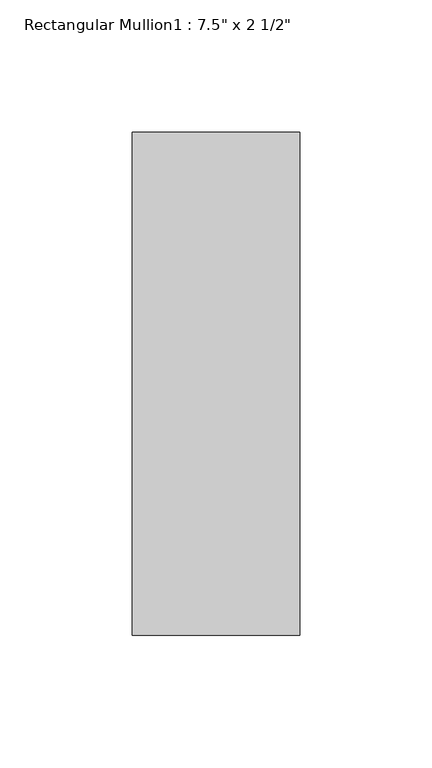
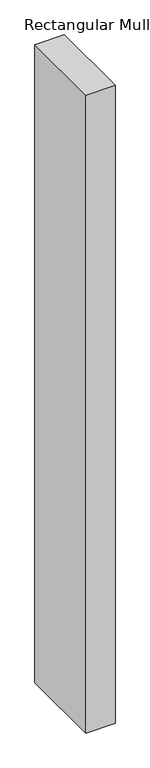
"""IFC4 building model written with IfcOpenShell, lengths in millimetres: member geometry."""

from ifc_helpers import new_model, si_unit, frame, origin, place, context, project, spatial, polyline, outline, extrude, source, transform, mapped, element, save


def member_0dfde9cc(model_context):
    return source(origin(), model_context, "Body", "SweptSolid", [
        extrude(outline(polyline([(-63.5, -165.1), (-63.5, 25.4), (0.0, 25.4), (0.0, -165.1), (-63.5, -165.1)])), frame((0.0, 0.0, -1460.5), z_axis=(0.0, 0.0, 1.0), x_axis=(1.0, 0.0, 0.0)), (0.0, 0.0, 1.0), 1460.5),
    ])


if __name__ == "__main__":
    model = new_model("IFC4")
    model_context = context("Model", 3, world=origin())
    ifc_project = project(units=[si_unit("LENGTHUNIT", "METRE", prefix="MILLI")], contexts=[model_context])
    site = spatial("IfcSite", under=ifc_project)
    building = spatial("IfcBuilding", under=site)
    placement = place(None, origin())
    member_shape = member_0dfde9cc(model_context)
    element("IfcMember", 1, ObjectType="Rectangular Mullion1 : 7.5\" x 2 1/2\"", at=placement, inside=building, context=model_context, shape_type="MappedRepresentation", body=[
        mapped(member_shape, transform((0.0, 0.0, 0.0), x_axis=(1.0, 0.0, 0.0), y_axis=(0.0, 1.0, 0.0), z_axis=(0.0, 0.0, 1.0))),
    ])
    save(model, "model.ifc")
